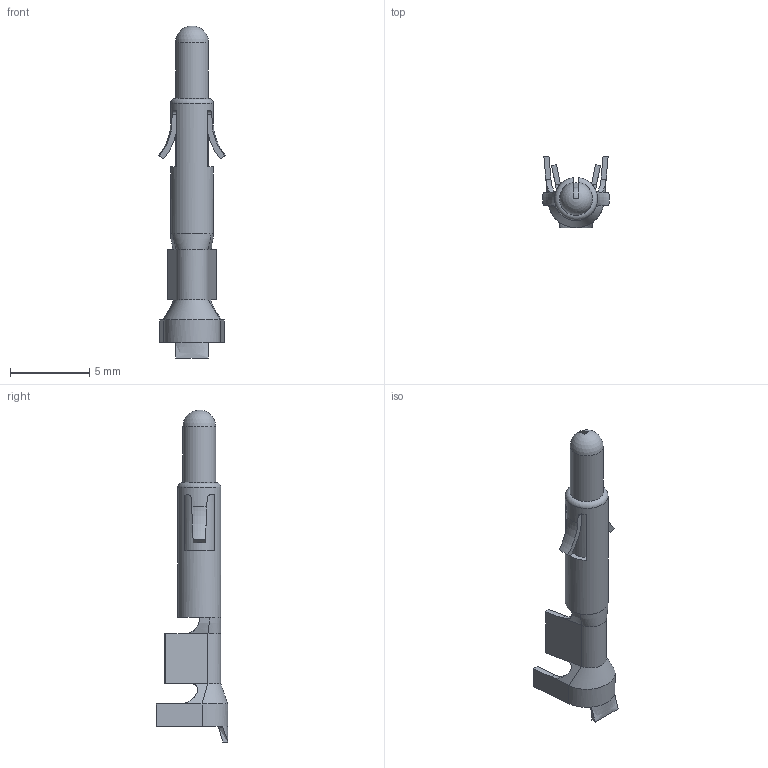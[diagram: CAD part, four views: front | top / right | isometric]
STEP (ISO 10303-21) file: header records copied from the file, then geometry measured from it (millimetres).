
FILE_DESCRIPTION((''),'2;1');
FILE_NAME('C-350547-6','2018-09-04T',('workeradm'),('TE Connectivity Ltd.'),'CREO PARAMETRIC BY PTC INC, 2016050','CREO PARAMETRIC BY PTC INC, 2016050','');
FILE_SCHEMA(('AUTOMOTIVE_DESIGN { 1 0 10303 214 1 1 1 1 }'));
Length unit declared in the file: millimetre
Products named in the file (1): C-350547-6
Bounding box: 4.22 x 4.51 x 20.94 mm (x, y, z)
Volume: 71.6 mm3; surface area: 264.4 mm2
Topology: 1 solids, 1 shells, 97 faces, 269 edges, 174 vertices
Faces by surface type: plane 50, cylinder 21, bspline 18, torus 6, sphere 2
Entity records: 6970 total; most frequent: CARTESIAN_POINT 4442, ORIENTED_EDGE 534, DIRECTION 432, EDGE_CURVE 267, VERTEX_POINT 174, AXIS2_PLACEMENT_3D 150, VECTOR 132, LINE 132
